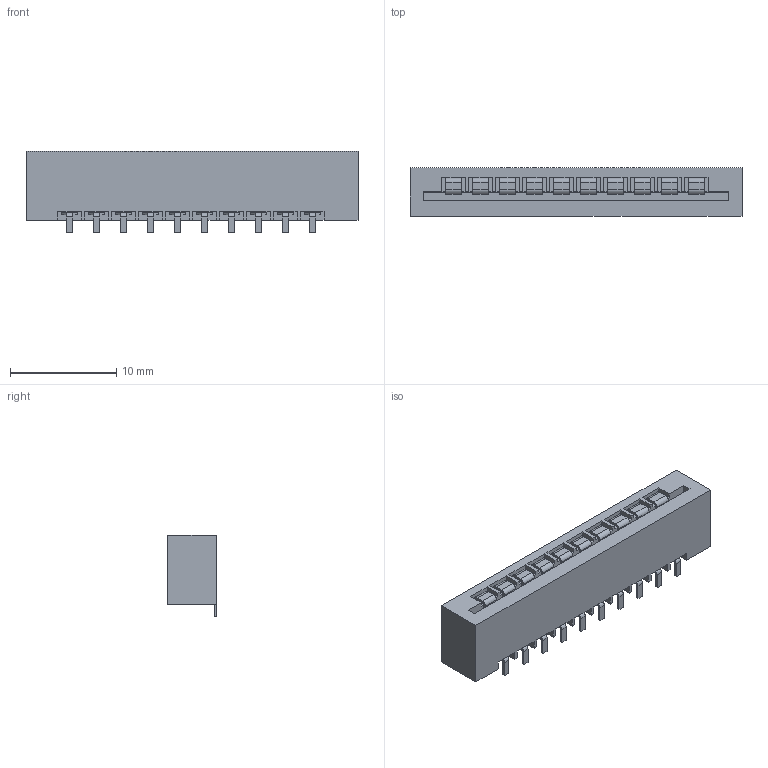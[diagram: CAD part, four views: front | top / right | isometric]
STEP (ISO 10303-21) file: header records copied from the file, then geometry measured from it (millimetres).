
FILE_DESCRIPTION (( 'STEP AP214' ), '1' );
FILE_NAME ('FB-10.STEP', '2011-05-17T10:21:37', ( 'vpeshkov' ), ( 'licard' ), 'SwSTEP 2.0', 'SolidWorks 2009', '' );
FILE_SCHEMA (( 'AUTOMOTIVE_DESIGN' ));
Length unit declared in the file: millimetre
Products named in the file (1): FB-10
Bounding box: 31.26 x 4.6 x 7.7 mm (x, y, z)
Volume: 748.8 mm3; surface area: 1310.4 mm2
Topology: 1 solids, 1 shells, 341 faces, 1014 edges, 676 vertices
Faces by surface type: plane 261, cylinder 80
Entity records: 14172 total; most frequent: CARTESIAN_POINT 2032, ORIENTED_EDGE 2028, DIRECTION 1858, EDGE_CURVE 1014, VECTOR 854, LINE 854, VERTEX_POINT 676, AXIS2_PLACEMENT_3D 502
